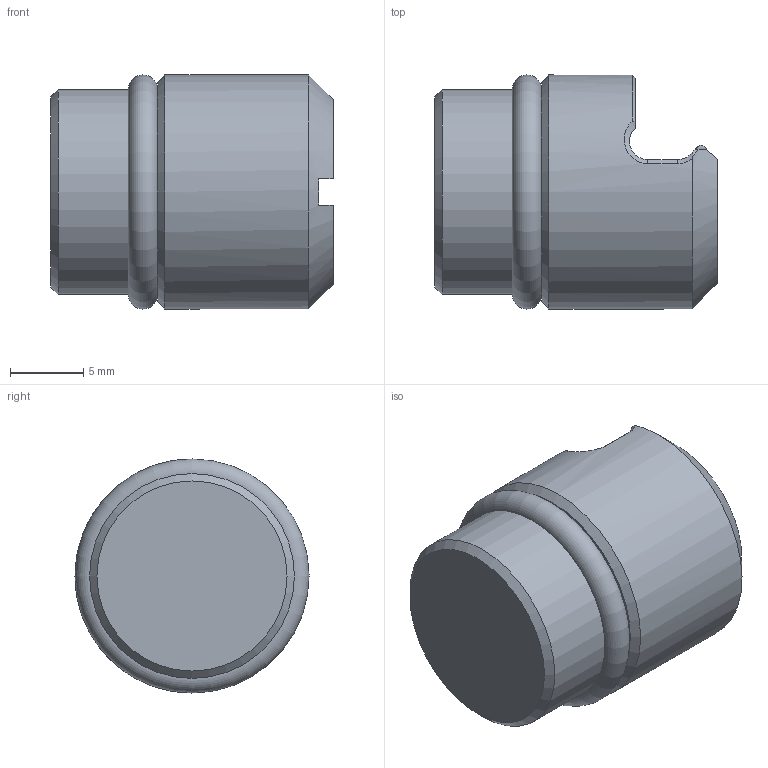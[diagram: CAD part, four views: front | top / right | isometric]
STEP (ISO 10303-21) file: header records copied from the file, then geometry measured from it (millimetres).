
FILE_DESCRIPTION (( 'STEP AP214' ), '1' );
FILE_NAME ('6921884036300.STEP', '2020-11-27T07:53:44', ( '' ), ( '' ), 'SwSTEP 2.0', 'SolidWorks 2018', '' );
FILE_SCHEMA (( 'AUTOMOTIVE_DESIGN' ));
Length unit declared in the file: millimetre
Products named in the file (1): 6921884036300
Bounding box: 19.3 x 16 x 16 mm (x, y, z)
Volume: 3182 mm3; surface area: 1579.3 mm2
Topology: 2 solids, 2 shells, 49 faces, 128 edges, 82 vertices
Faces by surface type: plane 23, cylinder 13, bspline 6, cone 5, torus 2
Full cylindrical faces by diameter (mm): 12 x1, 14 x1, 16 x1
Entity records: 1658 total; most frequent: CARTESIAN_POINT 566, ORIENTED_EDGE 234, DIRECTION 168, EDGE_CURVE 117, VERTEX_POINT 79, AXIS2_PLACEMENT_3D 58, EDGE_LOOP 56, VECTOR 52
